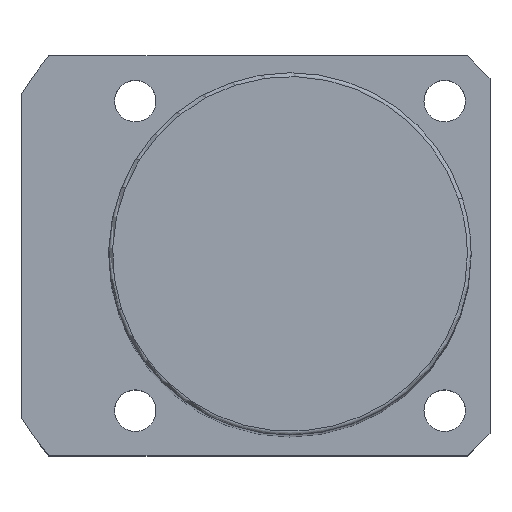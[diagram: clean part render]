
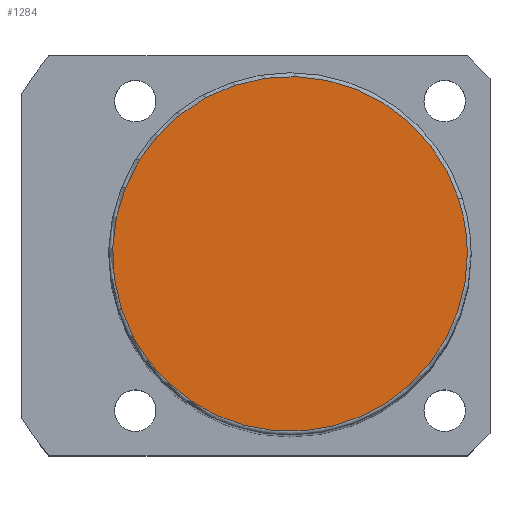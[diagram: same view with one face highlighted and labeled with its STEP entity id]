
A CAD part, top view. The second image highlights one B-rep face of the part: STEP entity #1284.
In plain terms, the highlighted planar face has unit normal (0, 0, 1).
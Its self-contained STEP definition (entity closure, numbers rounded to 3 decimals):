
#1217=CARTESIAN_POINT('',(22.35,7.262,159.0));
#1218=VERTEX_POINT('',#1217);
#1236=CARTESIAN_POINT('',(-22.35,-7.262,159.0));
#1237=VERTEX_POINT('',#1236);
#1245=CARTESIAN_POINT('',(0.0,0.0,159.0));
#1246=DIRECTION('',(0.0,0.0,1.0));
#1247=DIRECTION('',(1.0,0.0,0.0));
#1248=AXIS2_PLACEMENT_3D('',#1245,#1246,#1247);
#1249=CIRCLE('',#1248,23.5);
#1250=EDGE_CURVE('no 3289',#1218,#1237,#1249,.T.);
#1260=CARTESIAN_POINT('',(23.5,0.0,159.0));
#1261=VERTEX_POINT('',#1260);
#1262=CARTESIAN_POINT('',(0.0,0.0,159.0));
#1263=DIRECTION('',(0.0,0.0,1.0));
#1264=DIRECTION('',(1.0,0.0,0.0));
#1265=AXIS2_PLACEMENT_3D('',#1262,#1263,#1264);
#1266=CIRCLE('',#1265,23.5);
#1267=EDGE_CURVE('no 3298',#1261,#1218,#1266,.T.);
#1268=ORIENTED_EDGE('',*,*,#1267,.T.);
#1269=ORIENTED_EDGE('',*,*,#1250,.T.);
#1270=CARTESIAN_POINT('',(0.0,0.0,159.0));
#1271=DIRECTION('',(0.0,0.0,1.0));
#1272=DIRECTION('',(1.0,0.0,0.0));
#1273=AXIS2_PLACEMENT_3D('',#1270,#1271,#1272);
#1274=CIRCLE('',#1273,23.5);
#1275=EDGE_CURVE('no 3304',#1237,#1261,#1274,.T.);
#1276=ORIENTED_EDGE('',*,*,#1275,.T.);
#1277=EDGE_LOOP('',(#1268,#1269,#1276));
#1278=FACE_OUTER_BOUND('',#1277,.T.);
#1279=CARTESIAN_POINT('',(0.0,0.0,159.0));
#1280=DIRECTION('',(0.0,0.0,1.0));
#1281=DIRECTION('',(1.0,0.0,0.0));
#1282=AXIS2_PLACEMENT_3D('',#1279,#1280,#1281);
#1283=PLANE('',#1282);
#1284=ADVANCED_FACE('no 3291',(#1278),#1283,.T.);
